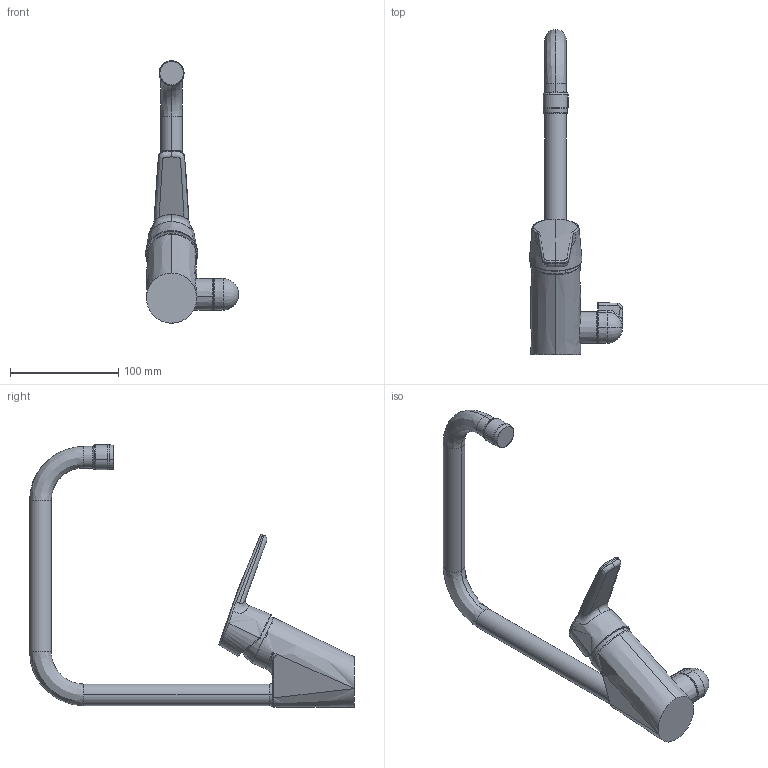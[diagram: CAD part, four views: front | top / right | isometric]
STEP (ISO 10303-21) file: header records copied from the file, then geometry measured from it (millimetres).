
FILE_DESCRIPTION (( 'STEP AP203' ), '1' );
FILE_NAME ('1524F-104(2022)+1524F-106(2022).STEP', '2022-01-13T09:01:19', ( '' ), ( '' ), 'SwSTEP 2.0', 'SolidWorks 2016', '' );
FILE_SCHEMA (( 'CONFIG_CONTROL_DESIGN' ));
Length unit declared in the file: millimetre
Products named in the file (1): 1524F-104(2022)+1524F-106(2022)
Bounding box: 86.25 x 300.7 x 242.95 mm (x, y, z)
Volume: 458290.9 mm3; surface area: 76370.6 mm2
Topology: 9 solids, 9 shells, 141 faces, 347 edges, 225 vertices
Faces by surface type: bspline 61, plane 26, cylinder 24, cone 16, torus 14
Entity records: 20920 total; most frequent: CARTESIAN_POINT 18024, ORIENTED_EDGE 688, DIRECTION 434, EDGE_CURVE 344, VERTEX_POINT 225, AXIS2_PLACEMENT_3D 194, B_SPLINE_CURVE_WITH_KNOTS 169, EDGE_LOOP 145
